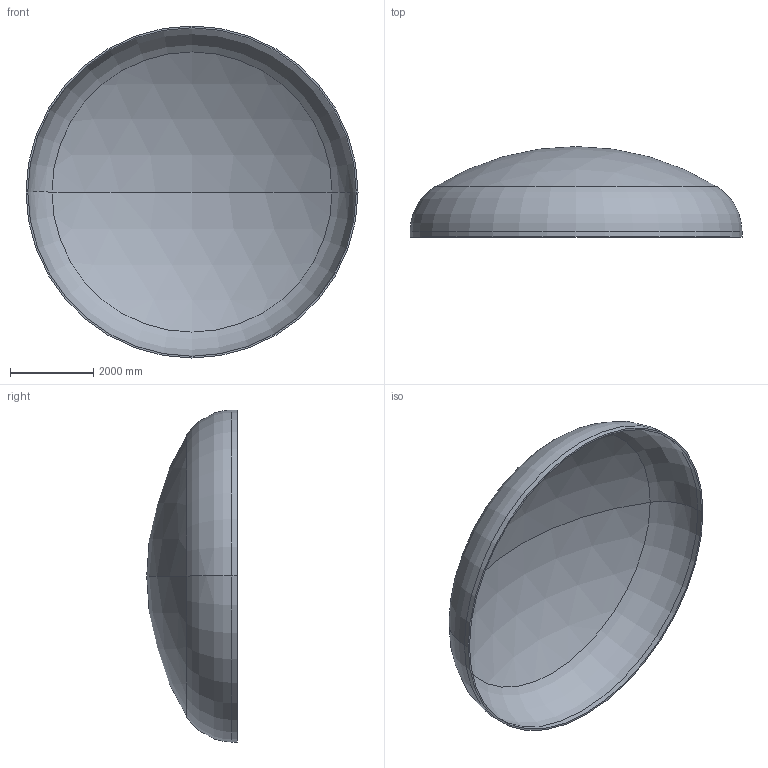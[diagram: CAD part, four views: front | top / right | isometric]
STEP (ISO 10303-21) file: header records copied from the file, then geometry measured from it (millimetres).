
FILE_DESCRIPTION (( 'STEP AP203' ), '1' );
FILE_NAME ('DIN 28013 Korbbogenform_-_Boden DIN 28013 - 8000 x 130 - I - s=43.step', '2016-07-04T11:01:37', ( '' ), ( '' ), 'SwSTEP 2.0', 'SolidWorks 2013', '' );
FILE_SCHEMA (( 'CONFIG_CONTROL_DESIGN' ));
Length unit declared in the file: millimetre
Products named in the file (1): DIN 28013 Korbbogenform_-_Boden DIN 28013 - 8000 x 130 - I - s=43
Bounding box: 8000 x 2180.69 x 8000 mm (x, y, z)
Volume: 3111219017.6 mm3; surface area: 145786575.8 mm2
Topology: 1 solids, 1 shells, 13 faces, 24 edges, 14 vertices
Faces by surface type: torus 4, cylinder 4, sphere 4, plane 1
Entity records: 407 total; most frequent: DIRECTION 72, CARTESIAN_POINT 52, ORIENTED_EDGE 48, AXIS2_PLACEMENT_3D 34, EDGE_CURVE 24, CIRCLE 20, EDGE_LOOP 14, VERTEX_POINT 14
